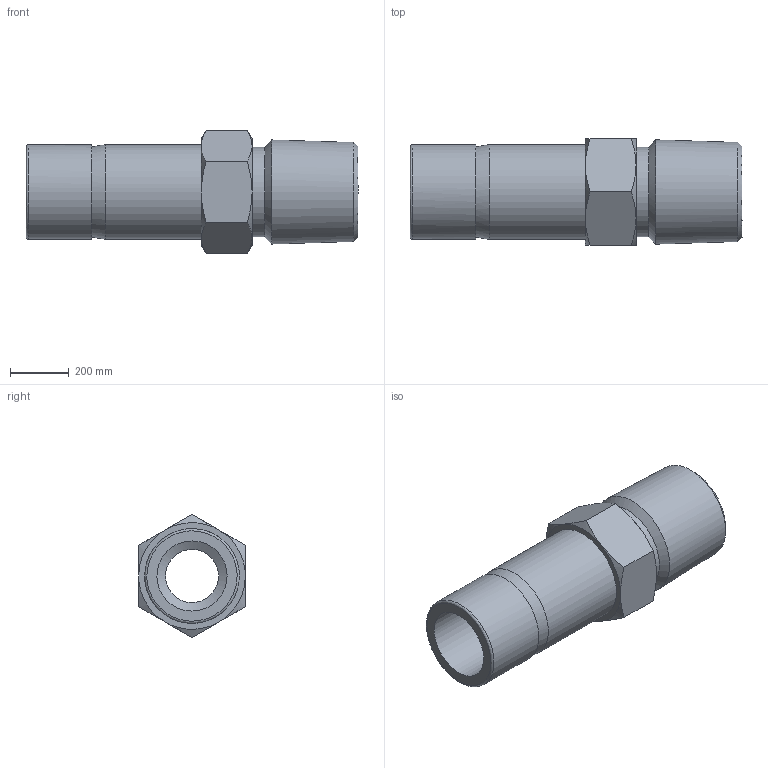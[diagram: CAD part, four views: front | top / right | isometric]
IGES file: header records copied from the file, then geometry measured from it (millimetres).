
Global section: file name: SMA-8-4N; native system: Autodesk Inventor 2016; preprocessor: unknown; author: DESIGNPC2; date: 20151221.100222; units: millimetre
Bounding box: 1130.3 x 362.9 x 419.04 mm (x, y, z)
Volume: 59317272.3 mm3; surface area: 2146815.4 mm2
Topology: 1 solids, 1 shells, 35 faces, 87 edges, 57 vertices
Faces by surface type: bspline 35
